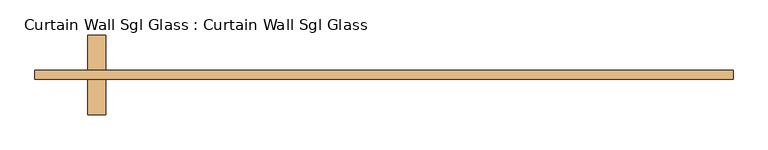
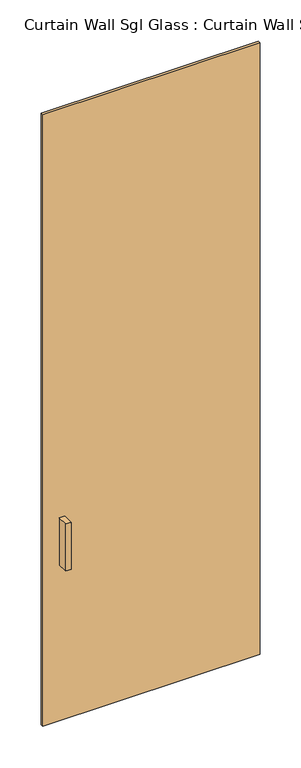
"""IFC4 building model written with IfcOpenShell, lengths in millimetres: door geometry, Curtain Wall Sgl Glass : Curtain Wall Sgl Glass."""

import ifcopenshell
import ifcopenshell.guid

model = None  # the IFC model being written
_history = None  # IfcOwnerHistory: only IFC2X3 demands one
_inside = {}  # id of a spatial element -> (the spatial element, [elements in it])
_under = {}  # id of a project, library or spatial element -> (it, [spatial elements below it])
_declared = {}  # id of a project -> (the project, [libraries it declares])
_typed = {}  # id of a type object -> (the type object, [elements of that type])
_made_of = {}  # id of a material, layer set ... -> (it, [elements and type objects made of it])


def new_model(schema):
    """Start an empty IFC model of exactly this schema.

    Asked for "IFC4X3", IfcOpenShell would pick the latest addendum, in which some entities
    have other attributes; the version numbers below select the first issue.
    IFC2X3 requires an IfcOwnerHistory on every rooted entity: one is made here for all.
    """
    global model, _history
    if schema == "IFC4X3":
        model = ifcopenshell.file(schema_version=(4, 3, 0, 0))
    else:
        model = ifcopenshell.file(schema=schema)
    _inside.clear()
    _under.clear()
    _declared.clear()
    _typed.clear()
    _made_of.clear()
    _history = None
    if model.schema == "IFC2X3":
        org = make("IfcOrganization", Name="unknown")
        user = make(
            "IfcPersonAndOrganization",
            ThePerson=make("IfcPerson", FamilyName="unknown"),
            TheOrganization=org,
        )
        app = make(
            "IfcApplication",
            ApplicationDeveloper=org,
            Version="unknown",
            ApplicationFullName="unknown",
            ApplicationIdentifier="unknown",
        )
        _history = make(
            "IfcOwnerHistory",
            OwningUser=user,
            OwningApplication=app,
            ChangeAction="ADDED",
            CreationDate=0,
        )
    return model


def make(cls, **values):
    """One entity of the class cls with the attributes given. An attribute that is None is left unset."""
    return model.create_entity(
        cls, **{name: value for name, value in values.items() if value is not None}
    )


def rooted(cls, **values):
    """An entity with a GlobalId (a new one), such as an element, a storey or a relation."""
    return make(cls, GlobalId=ifcopenshell.guid.new(), OwnerHistory=_history, **values)


def si_unit(unit_type, name, prefix=None):
    """IfcSIUnit, for example si_unit("LENGTHUNIT", "METRE", prefix="MILLI")."""
    return make("IfcSIUnit", UnitType=unit_type, Prefix=prefix, Name=name)


def assignment(units):
    """IfcUnitAssignment: the units of a project."""
    return None if units is None else make("IfcUnitAssignment", Units=units)


def point(xyz):
    """IfcCartesianPoint."""
    return None if xyz is None else make("IfcCartesianPoint", Coordinates=xyz)


def direction(xyz):
    """IfcDirection."""
    return None if xyz is None else make("IfcDirection", DirectionRatios=xyz)


def frame(location, z_axis=None, x_axis=None):
    """IfcAxis2Placement3D, a coordinate frame: its origin and axes. An axis left out is left unset."""
    return make(
        "IfcAxis2Placement3D",
        Location=point(location),
        Axis=direction(z_axis),
        RefDirection=direction(x_axis),
    )


def origin():
    """The frame at (0, 0, 0) with its axes left unset."""
    return frame((0.0, 0.0, 0.0))


def origin_with_axes():
    """The frame at (0, 0, 0) with the z axis (0, 0, 1) and the x axis (1, 0, 0) written out."""
    return frame((0.0, 0.0, 0.0), z_axis=(0.0, 0.0, 1.0), x_axis=(1.0, 0.0, 0.0))


def place(relative_to, where):
    """IfcLocalPlacement: puts the frame where relative to a parent placement (None: the world)."""
    return make(
        "IfcLocalPlacement", PlacementRelTo=relative_to, RelativePlacement=where
    )


def context(
    kind, dimensions, precision=None, world=None, true_north=None, identifier=None
):
    """IfcGeometricRepresentationContext, for example the 3D "Model" context."""
    return make(
        "IfcGeometricRepresentationContext",
        ContextIdentifier=identifier,
        ContextType=kind,
        CoordinateSpaceDimension=dimensions,
        Precision=precision,
        WorldCoordinateSystem=world,
        TrueNorth=true_north,
    )


def project(units=None, contexts=None):
    """IfcProject with its units and contexts."""
    return rooted(
        "IfcProject",
        Name="project",
        RepresentationContexts=contexts,
        UnitsInContext=assignment(units),
    )


def spatial(cls, under=None, at=None, **own):
    """A site, building, storey or space (cls), placed at a placement, below another one or the project."""
    s = rooted(cls, ObjectPlacement=at, **own)
    if under is not None:
        _under.setdefault(under.id(), (under, []))[1].append(s)
    return s


def polyline(points):
    """IfcPolyline through the points."""
    return make("IfcPolyline", Points=[point(p) for p in points])


def outline(outer, holes=None, kind="AREA"):
    """IfcArbitraryClosedProfileDef: a profile drawn as a closed curve; with holes, ...WithVoids."""
    if holes is None:
        return make("IfcArbitraryClosedProfileDef", ProfileType=kind, OuterCurve=outer)
    return make(
        "IfcArbitraryProfileDefWithVoids",
        ProfileType=kind,
        OuterCurve=outer,
        InnerCurves=holes,
    )


def extrude(swept, where, along, depth):
    """IfcExtrudedAreaSolid: the profile swept, set in the frame where, extruded along a direction by depth."""
    return make(
        "IfcExtrudedAreaSolid",
        SweptArea=swept,
        Position=where,
        ExtrudedDirection=direction(along),
        Depth=depth,
    )


def shape(context_of_items, identifier, shape_type, items):
    """IfcShapeRepresentation: the items that make up one representation, for example the "Body"."""
    return make(
        "IfcShapeRepresentation",
        ContextOfItems=context_of_items,
        RepresentationIdentifier=identifier,
        RepresentationType=shape_type,
        Items=items,
    )


def source(mapping_origin, context_of_items, identifier, shape_type, items):
    """IfcRepresentationMap: a shape defined once, which mapped items show again and again."""
    return make(
        "IfcRepresentationMap",
        MappingOrigin=mapping_origin,
        MappedRepresentation=shape(context_of_items, identifier, shape_type, items),
    )


def transform(
    local_origin,
    x_axis=None,
    y_axis=None,
    z_axis=None,
    scale=None,
    scale2=None,
    scale3=None,
    uniform=True,
):
    """IfcCartesianTransformationOperator3D, or its non-uniform kind. x_axis, y_axis, z_axis: its Axis1, 2, 3."""
    if uniform:
        return make(
            "IfcCartesianTransformationOperator3D",
            Axis1=direction(x_axis),
            Axis2=direction(y_axis),
            LocalOrigin=point(local_origin),
            Scale=scale,
            Axis3=direction(z_axis),
        )
    return make(
        "IfcCartesianTransformationOperator3DnonUniform",
        Axis1=direction(x_axis),
        Axis2=direction(y_axis),
        LocalOrigin=point(local_origin),
        Scale=scale,
        Axis3=direction(z_axis),
        Scale2=scale2,
        Scale3=scale3,
    )


def mapped(mapping_source, mapping_target):
    """IfcMappedItem: shows the shape of a source again, moved by a transform."""
    return make(
        "IfcMappedItem", MappingSource=mapping_source, MappingTarget=mapping_target
    )


def made_of(thing, what):
    """Note that an element or type object is made of a material, layer set ...; save() writes the relation."""
    if what is not None:
        _made_of.setdefault(what.id(), (what, []))[1].append(thing)
    return thing


def element(
    cls,
    number,
    at=None,
    inside=None,
    cuts=None,
    type_object=None,
    material=None,
    context=None,
    identifier="Body",
    shape_type=None,
    held_by="IfcProductDefinitionShape",
    body=None,
    shapes=None,
    **own,
):
    """One element of the class cls, such as IfcWall. Its Tag is "e" and its number.

    at: its placement. inside: the storey or other place that contains it. cuts: it is an
    opening in that element (IfcRelVoidsElement). A single representation is given by context,
    identifier, shape_type and body (its items); several are given by shapes. held_by: the class
    of the entity that holds the representations. save() writes the other relations.
    """
    e = rooted(cls, Tag="e%d" % number, ObjectPlacement=at, **own)
    if body is not None:
        shapes = [shape(context, identifier, shape_type, body)]
    if shapes is not None:
        e.Representation = make(held_by, Representations=shapes)
    if inside is not None:
        _inside.setdefault(inside.id(), (inside, []))[1].append(e)
    if cuts is not None:
        rooted(
            "IfcRelVoidsElement", RelatingBuildingElement=cuts, RelatedOpeningElement=e
        )
    if type_object is not None:
        _typed.setdefault(type_object.id(), (type_object, []))[1].append(e)
    return made_of(e, material)


def aggregate(whole, parts):
    """IfcRelAggregates: a whole, such as a stair, and the parts it consists of."""
    return rooted("IfcRelAggregates", RelatingObject=whole, RelatedObjects=parts)


def save(model, path):
    """Write the relations noted so far, then the file.

    IfcRelAggregates (storeys below a building ...), IfcRelContainedInSpatialStructure (elements
    in a storey), IfcRelDefinesByType, IfcRelAssociatesMaterial and IfcRelDeclares: one each for
    every whole, place, type object, material and project.
    """
    for whole, parts in _under.values():
        aggregate(whole, parts)
    for where, things in _inside.values():
        rooted(
            "IfcRelContainedInSpatialStructure",
            RelatedElements=things,
            RelatingStructure=where,
        )
    for kind, things in _typed.values():
        rooted("IfcRelDefinesByType", RelatedObjects=things, RelatingType=kind)
    for what, things in _made_of.values():
        rooted("IfcRelAssociatesMaterial", RelatedObjects=things, RelatingMaterial=what)
    for by, libraries in _declared.values():
        rooted("IfcRelDeclares", RelatingContext=by, RelatedDefinitions=libraries)
    model.write(path)


def curtain_wall_sgl_glass_curtain_wall_sgl_glass_4a097fc2(model_context):
    return source(origin(), model_context, "Body", "SweptSolid", [
        extrude(outline(polyline([(-399.5964285, -12.7), (-424.9964285, -12.7), (-424.9964285, 38.1), (-399.5964285, 38.1), (-399.5964285, -12.7)])), frame((0.0, 0.0, 762.0), z_axis=(0.0, 0.0, 1.0), x_axis=(1.0, 0.0, 0.0)), (0.0, 0.0, 1.0), 228.6),
        extrude(outline(polyline([(-424.9964285, 101.6), (-399.5964285, 101.6), (-399.5964285, 50.8), (-424.9964285, 50.8), (-424.9964285, 101.6)])), frame((0.0, 0.0, 762.0), z_axis=(0.0, 0.0, 1.0), x_axis=(1.0, 0.0, 0.0)), (0.0, 0.0, 1.0), 228.6),
        extrude(outline(polyline([(501.1964285, 50.8), (501.1964285, 38.1), (-501.1964285, 38.1), (-501.1964285, 50.8), (501.1964285, 50.8)])), origin_with_axes(), (0.0, 0.0, 1.0), 2984.5),
    ])


if __name__ == "__main__":
    model = new_model("IFC4")
    model_context = context("Model", 3, world=origin())
    ifc_project = project(units=[si_unit("LENGTHUNIT", "METRE", prefix="MILLI")], contexts=[model_context])
    site = spatial("IfcSite", under=ifc_project)
    building = spatial("IfcBuilding", under=site)
    placement = place(None, origin())
    curtain_wall_sgl_glass_curtain_wall_sgl_glass_shape = curtain_wall_sgl_glass_curtain_wall_sgl_glass_4a097fc2(model_context)
    element("IfcDoor", 1, ObjectType="Curtain Wall Sgl Glass : Curtain Wall Sgl Glass", at=placement, inside=building, context=model_context, shape_type="MappedRepresentation", body=[
        mapped(curtain_wall_sgl_glass_curtain_wall_sgl_glass_shape, transform((0.0, 0.0, 0.0), x_axis=(1.0, 0.0, 0.0), y_axis=(0.0, 1.0, 0.0), z_axis=(0.0, 0.0, 1.0))),
    ])
    save(model, "model.ifc")
